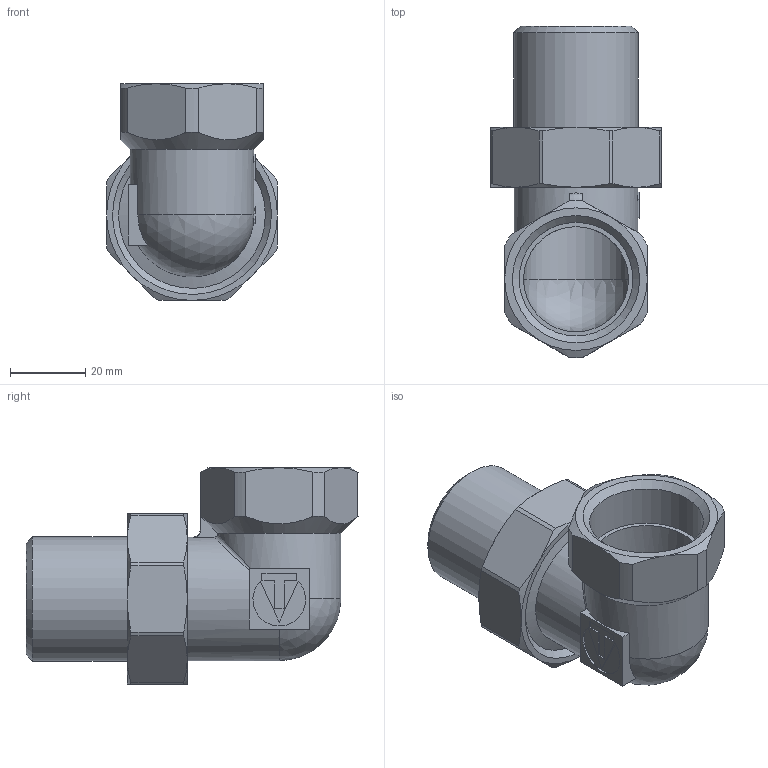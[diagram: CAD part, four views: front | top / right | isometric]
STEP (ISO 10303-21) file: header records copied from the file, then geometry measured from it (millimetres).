
FILE_DESCRIPTION(('STEP AP203'), '1');
FILE_NAME('覆.302635.008.000 捘 - VTr.098.N.0006', '2024-06-24T10:49:07', ('Boss'), (''), 'C3D Converter', 'C3D Toolkit', '');
FILE_SCHEMA(('CONFIG_CONTROL_DESIGN'));
Length unit declared in the file: millimetre
Products named in the file (1): ВР.302635.008.000 СБ
Bounding box: 45.5 x 88.5 x 57.75 mm (x, y, z)
Volume: 46328.9 mm3; surface area: 26192.8 mm2
Topology: 1 solids, 3 shells, 204 faces, 525 edges, 338 vertices
Faces by surface type: plane 74, extrusion 54, cylinder 35, cone 32, torus 4, bspline 3, sphere 2
Full cylindrical faces by diameter (mm): 25 x1, 28 x2, 30.292 x1, 33 x1, 33.249 x1, 34 x1, 36.5 x1, 38.953 x1
Entity records: 8887 total; most frequent: CARTESIAN_POINT 4503, ORIENTED_EDGE 970, DIRECTION 715, EDGE_CURVE 485, VERTEX_POINT 331, AXIS2_PLACEMENT_3D 242, EDGE_LOOP 240, VECTOR 231
